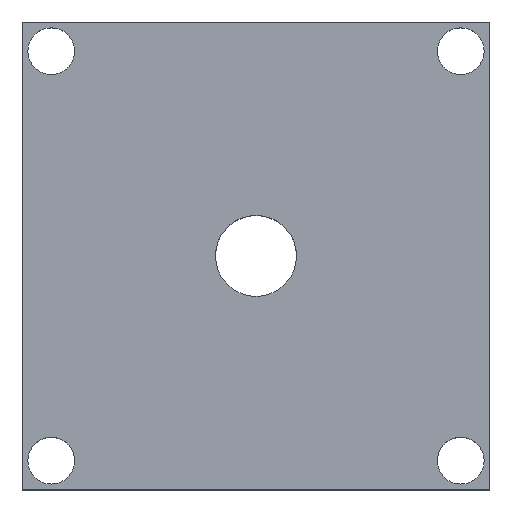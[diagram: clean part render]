
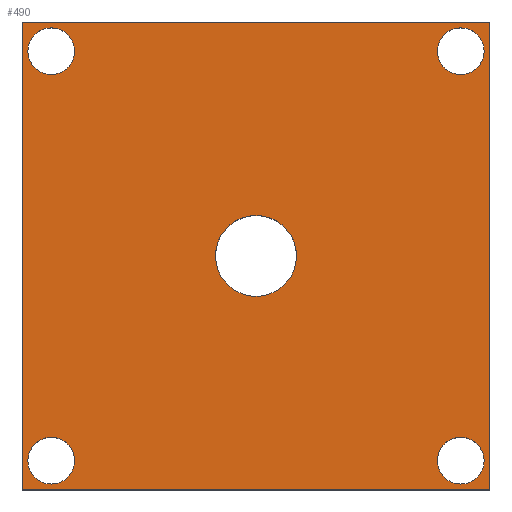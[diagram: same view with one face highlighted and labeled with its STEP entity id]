
A CAD part, top view. The second image highlights one B-rep face of the part: STEP entity #490.
In plain terms, the highlighted planar face has unit normal (0, 0, 1).
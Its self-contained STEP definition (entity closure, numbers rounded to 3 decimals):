
#105=CARTESIAN_POINT('',(36.798,-21.886,8.0));
#106=VERTEX_POINT('',#105);
#107=CARTESIAN_POINT('',(29.88,-21.886,8.));
#108=DIRECTION('',(0.0,0.0,-1.0));
#109=DIRECTION('',(1.0,0.0,0.0));
#110=AXIS2_PLACEMENT_3D('',#107,#108,#109);
#111=CIRCLE('',#110,6.918);
#112=EDGE_CURVE('',#106,#106,#111,.T.);
#154=CARTESIAN_POINT('',(-1.12,-56.886,8.0));
#155=VERTEX_POINT('',#154);
#156=CARTESIAN_POINT('',(-5.12,-56.886,8.));
#157=DIRECTION('',(0.0,0.0,-1.0));
#158=DIRECTION('',(1.0,0.0,0.0));
#159=AXIS2_PLACEMENT_3D('',#156,#157,#158);
#160=CIRCLE('',#159,4.0);
#161=EDGE_CURVE('',#155,#155,#160,.T.);
#203=CARTESIAN_POINT('',(68.88,-56.886,8.0));
#204=VERTEX_POINT('',#203);
#205=CARTESIAN_POINT('',(64.88,-56.886,8.));
#206=DIRECTION('',(0.0,0.0,-1.0));
#207=DIRECTION('',(1.0,0.0,0.0));
#208=AXIS2_PLACEMENT_3D('',#205,#206,#207);
#209=CIRCLE('',#208,4.0);
#210=EDGE_CURVE('',#204,#204,#209,.T.);
#252=CARTESIAN_POINT('',(68.88,13.114,8.0));
#253=VERTEX_POINT('',#252);
#254=CARTESIAN_POINT('',(64.88,13.114,8.));
#255=DIRECTION('',(0.0,0.0,-1.0));
#256=DIRECTION('',(1.0,0.0,0.0));
#257=AXIS2_PLACEMENT_3D('',#254,#255,#256);
#258=CIRCLE('',#257,4.0);
#259=EDGE_CURVE('',#253,#253,#258,.T.);
#301=CARTESIAN_POINT('',(-1.12,13.114,8.0));
#302=VERTEX_POINT('',#301);
#303=CARTESIAN_POINT('',(-5.12,13.114,8.));
#304=DIRECTION('',(0.0,0.0,-1.0));
#305=DIRECTION('',(1.0,0.0,0.0));
#306=AXIS2_PLACEMENT_3D('',#303,#304,#305);
#307=CIRCLE('',#306,4.0);
#308=EDGE_CURVE('',#302,#302,#307,.T.);
#318=CARTESIAN_POINT('',(-10.12,-61.886,8.0));
#319=VERTEX_POINT('',#318);
#320=CARTESIAN_POINT('',(-10.12,18.114,8.0));
#321=VERTEX_POINT('',#320);
#322=CARTESIAN_POINT('',(-10.12,-61.886,8.0));
#323=DIRECTION('',(0.0,1.0,0.0));
#324=VECTOR('',#323,80.0);
#325=LINE('',#322,#324);
#326=EDGE_CURVE('',#319,#321,#325,.T.);
#358=CARTESIAN_POINT('',(69.88,18.114,8.0));
#359=VERTEX_POINT('',#358);
#360=CARTESIAN_POINT('',(-10.12,18.114,8.0));
#361=DIRECTION('',(1.0,0.0,0.0));
#362=VECTOR('',#361,80.);
#363=LINE('',#360,#362);
#364=EDGE_CURVE('',#321,#359,#363,.T.);
#389=CARTESIAN_POINT('',(69.88,-61.886,8.0));
#390=VERTEX_POINT('',#389);
#391=CARTESIAN_POINT('',(69.88,18.114,8.0));
#392=DIRECTION('',(0.0,-1.0,0.0));
#393=VECTOR('',#392,80.);
#394=LINE('',#391,#393);
#395=EDGE_CURVE('',#359,#390,#394,.T.);
#420=CARTESIAN_POINT('',(69.88,-61.886,8.0));
#421=DIRECTION('',(-1.0,0.0,0.0));
#422=VECTOR('',#421,80.);
#423=LINE('',#420,#422);
#424=EDGE_CURVE('',#390,#319,#423,.T.);
#464=CARTESIAN_POINT('',(29.88,-21.886,8.0));
#465=DIRECTION('',(0.0,0.0,1.0));
#466=DIRECTION('',(1.0,0.0,0.0));
#467=AXIS2_PLACEMENT_3D('',#464,#465,#466);
#468=PLANE('',#467);
#469=ORIENTED_EDGE('',*,*,#326,.F.);
#470=ORIENTED_EDGE('',*,*,#424,.F.);
#471=ORIENTED_EDGE('',*,*,#395,.F.);
#472=ORIENTED_EDGE('',*,*,#364,.F.);
#473=EDGE_LOOP('',(#469,#470,#471,#472));
#474=FACE_OUTER_BOUND('',#473,.T.);
#475=ORIENTED_EDGE('',*,*,#112,.T.);
#476=EDGE_LOOP('',(#475));
#477=FACE_BOUND('',#476,.T.);
#478=ORIENTED_EDGE('',*,*,#161,.T.);
#479=EDGE_LOOP('',(#478));
#480=FACE_BOUND('',#479,.T.);
#481=ORIENTED_EDGE('',*,*,#210,.T.);
#482=EDGE_LOOP('',(#481));
#483=FACE_BOUND('',#482,.T.);
#484=ORIENTED_EDGE('',*,*,#259,.T.);
#485=EDGE_LOOP('',(#484));
#486=FACE_BOUND('',#485,.T.);
#487=ORIENTED_EDGE('',*,*,#308,.T.);
#488=EDGE_LOOP('',(#487));
#489=FACE_BOUND('',#488,.T.);
#490=ADVANCED_FACE('',(#474,#477,#480,#483,#486,#489),#468,.T.);
